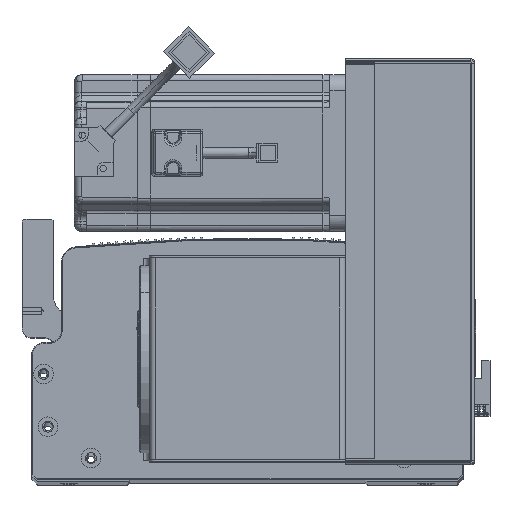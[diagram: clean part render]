
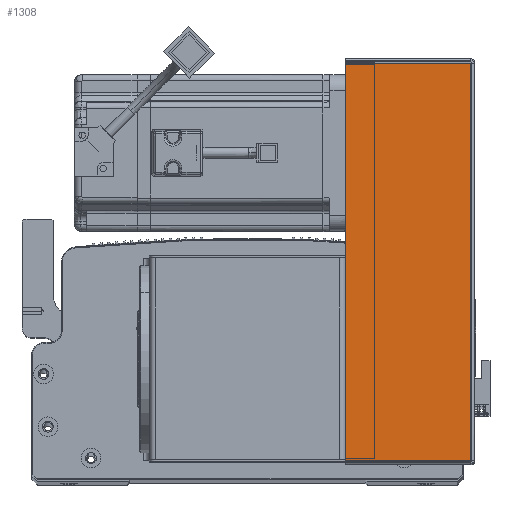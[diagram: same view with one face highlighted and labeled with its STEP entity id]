
A CAD part, top view. The second image highlights one B-rep face of the part: STEP entity #1308.
In plain terms, the highlighted planar face has unit normal (0, 0, 1) as drawn and (0, -1, 0) by its records, which use the part's own axes.
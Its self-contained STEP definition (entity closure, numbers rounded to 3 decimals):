
#1308 = ADVANCED_FACE ( 'NONE', ( #71959 ), #29175, .F. ) ;
#7707 = ORIENTED_EDGE ( 'NONE', *, *, #21139, .T. ) ;
#8589 = DIRECTION ( 'NONE',  ( 0., 0., 1. ) ) ;
#13007 = VERTEX_POINT ( 'NONE', #57875 ) ;
#18004 = VERTEX_POINT ( 'NONE', #18523 ) ;
#18523 = CARTESIAN_POINT ( 'NONE',  ( 64.5, -1.5, -0.707 ) ) ;
#19069 = ORIENTED_EDGE ( 'NONE', *, *, #68128, .T. ) ;
#21139 = EDGE_CURVE ( 'NONE', #43740, #13007, #31340, .T. ) ;
#22849 = CARTESIAN_POINT ( 'NONE',  ( 0., -1.5, 0. ) ) ;
#23203 = LINE ( 'NONE', #81248, #71717 ) ;
#24607 = ORIENTED_EDGE ( 'NONE', *, *, #64938, .F. ) ;
#29175 = PLANE ( 'NONE',  #31716 ) ;
#30447 = CARTESIAN_POINT ( 'NONE',  ( 0., -1.5, -0.707 ) ) ;
#31340 = LINE ( 'NONE', #39192, #58156 ) ;
#31716 = AXIS2_PLACEMENT_3D ( 'NONE', #22849, #75338, #81995 ) ;
#38935 = LINE ( 'NONE', #30447, #67775 ) ;
#39192 = CARTESIAN_POINT ( 'NONE',  ( 0., -1.5, -203.293 ) ) ;
#40153 = ORIENTED_EDGE ( 'NONE', *, *, #50222, .F. ) ;
#43740 = VERTEX_POINT ( 'NONE', #68100 ) ;
#46407 = CARTESIAN_POINT ( 'NONE',  ( 64.5, -1.5, 0. ) ) ;
#49450 = CARTESIAN_POINT ( 'NONE',  ( 0.737, -1.5, -0.707 ) ) ;
#50222 = EDGE_CURVE ( 'NONE', #43740, #84407, #23203, .T. ) ;
#52211 = DIRECTION ( 'NONE',  ( 0., 0., 1. ) ) ;
#57875 = CARTESIAN_POINT ( 'NONE',  ( 64.5, -1.5, -203.293 ) ) ;
#58156 = VECTOR ( 'NONE', #71477, 1000. ) ;
#61290 = LINE ( 'NONE', #46407, #66506 ) ;
#64938 = EDGE_CURVE ( 'NONE', #84407, #18004, #38935, .T. ) ;
#66506 = VECTOR ( 'NONE', #52211, 1000. ) ;
#67775 = VECTOR ( 'NONE', #76340, 1000. ) ;
#68100 = CARTESIAN_POINT ( 'NONE',  ( 0.737, -1.5, -203.293 ) ) ;
#68128 = EDGE_CURVE ( 'NONE', #13007, #18004, #61290, .T. ) ;
#71477 = DIRECTION ( 'NONE',  ( 1., 0., 0. ) ) ;
#71717 = VECTOR ( 'NONE', #8589, 1000. ) ;
#71959 = FACE_OUTER_BOUND ( 'NONE', #80053, .T. ) ;
#75338 = DIRECTION ( 'NONE',  ( 0., 1., 0. ) ) ;
#76340 = DIRECTION ( 'NONE',  ( 1., 0., 0. ) ) ;
#80053 = EDGE_LOOP ( 'NONE', ( #40153, #7707, #19069, #24607 ) ) ;
#81248 = CARTESIAN_POINT ( 'NONE',  ( 0.737, -1.5, 0. ) ) ;
#81995 = DIRECTION ( 'NONE',  ( -1., 0., 0. ) ) ;
#84407 = VERTEX_POINT ( 'NONE', #49450 ) ;
